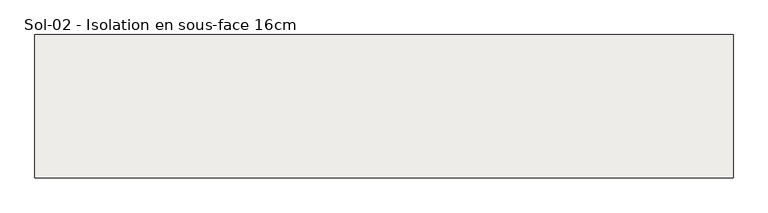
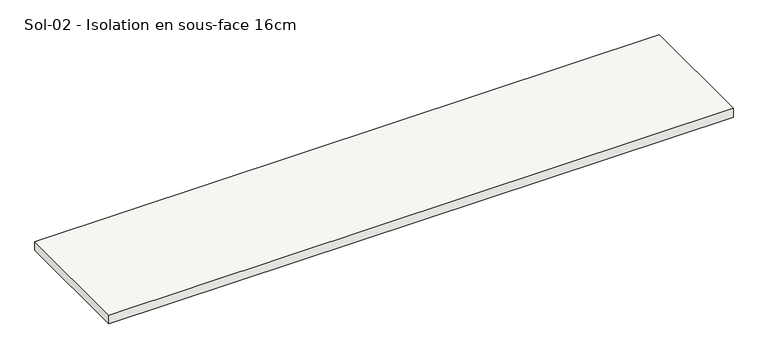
"""IFC4 building model written with IfcOpenShell, lengths in millimetres: slab geometry, Sol-02 - Isolation en sous-face 16cm."""

import ifcopenshell
import ifcopenshell.guid

model = None  # the IFC model being written
_history = None  # IfcOwnerHistory: only IFC2X3 demands one
_inside = {}  # id of a spatial element -> (the spatial element, [elements in it])
_under = {}  # id of a project, library or spatial element -> (it, [spatial elements below it])
_declared = {}  # id of a project -> (the project, [libraries it declares])
_typed = {}  # id of a type object -> (the type object, [elements of that type])
_made_of = {}  # id of a material, layer set ... -> (it, [elements and type objects made of it])


def new_model(schema):
    """Start an empty IFC model of exactly this schema.

    Asked for "IFC4X3", IfcOpenShell would pick the latest addendum, in which some entities
    have other attributes; the version numbers below select the first issue.
    IFC2X3 requires an IfcOwnerHistory on every rooted entity: one is made here for all.
    """
    global model, _history
    if schema == "IFC4X3":
        model = ifcopenshell.file(schema_version=(4, 3, 0, 0))
    else:
        model = ifcopenshell.file(schema=schema)
    _inside.clear()
    _under.clear()
    _declared.clear()
    _typed.clear()
    _made_of.clear()
    _history = None
    if model.schema == "IFC2X3":
        org = make("IfcOrganization", Name="unknown")
        user = make(
            "IfcPersonAndOrganization",
            ThePerson=make("IfcPerson", FamilyName="unknown"),
            TheOrganization=org,
        )
        app = make(
            "IfcApplication",
            ApplicationDeveloper=org,
            Version="unknown",
            ApplicationFullName="unknown",
            ApplicationIdentifier="unknown",
        )
        _history = make(
            "IfcOwnerHistory",
            OwningUser=user,
            OwningApplication=app,
            ChangeAction="ADDED",
            CreationDate=0,
        )
    return model


def make(cls, **values):
    """One entity of the class cls with the attributes given. An attribute that is None is left unset."""
    return model.create_entity(
        cls, **{name: value for name, value in values.items() if value is not None}
    )


def rooted(cls, **values):
    """An entity with a GlobalId (a new one), such as an element, a storey or a relation."""
    return make(cls, GlobalId=ifcopenshell.guid.new(), OwnerHistory=_history, **values)


def si_unit(unit_type, name, prefix=None):
    """IfcSIUnit, for example si_unit("LENGTHUNIT", "METRE", prefix="MILLI")."""
    return make("IfcSIUnit", UnitType=unit_type, Prefix=prefix, Name=name)


def assignment(units):
    """IfcUnitAssignment: the units of a project."""
    return None if units is None else make("IfcUnitAssignment", Units=units)


def point(xyz):
    """IfcCartesianPoint."""
    return None if xyz is None else make("IfcCartesianPoint", Coordinates=xyz)


def direction(xyz):
    """IfcDirection."""
    return None if xyz is None else make("IfcDirection", DirectionRatios=xyz)


def frame(location, z_axis=None, x_axis=None):
    """IfcAxis2Placement3D, a coordinate frame: its origin and axes. An axis left out is left unset."""
    return make(
        "IfcAxis2Placement3D",
        Location=point(location),
        Axis=direction(z_axis),
        RefDirection=direction(x_axis),
    )


def origin():
    """The frame at (0, 0, 0) with its axes left unset."""
    return frame((0.0, 0.0, 0.0))


def place(relative_to, where):
    """IfcLocalPlacement: puts the frame where relative to a parent placement (None: the world)."""
    return make(
        "IfcLocalPlacement", PlacementRelTo=relative_to, RelativePlacement=where
    )


def context(
    kind, dimensions, precision=None, world=None, true_north=None, identifier=None
):
    """IfcGeometricRepresentationContext, for example the 3D "Model" context."""
    return make(
        "IfcGeometricRepresentationContext",
        ContextIdentifier=identifier,
        ContextType=kind,
        CoordinateSpaceDimension=dimensions,
        Precision=precision,
        WorldCoordinateSystem=world,
        TrueNorth=true_north,
    )


def project(units=None, contexts=None):
    """IfcProject with its units and contexts."""
    return rooted(
        "IfcProject",
        Name="project",
        RepresentationContexts=contexts,
        UnitsInContext=assignment(units),
    )


def spatial(cls, under=None, at=None, **own):
    """A site, building, storey or space (cls), placed at a placement, below another one or the project."""
    s = rooted(cls, ObjectPlacement=at, **own)
    if under is not None:
        _under.setdefault(under.id(), (under, []))[1].append(s)
    return s


def polyline(points):
    """IfcPolyline through the points."""
    return make("IfcPolyline", Points=[point(p) for p in points])


def outline(outer, holes=None, kind="AREA"):
    """IfcArbitraryClosedProfileDef: a profile drawn as a closed curve; with holes, ...WithVoids."""
    if holes is None:
        return make("IfcArbitraryClosedProfileDef", ProfileType=kind, OuterCurve=outer)
    return make(
        "IfcArbitraryProfileDefWithVoids",
        ProfileType=kind,
        OuterCurve=outer,
        InnerCurves=holes,
    )


def extrude(swept, where, along, depth):
    """IfcExtrudedAreaSolid: the profile swept, set in the frame where, extruded along a direction by depth."""
    return make(
        "IfcExtrudedAreaSolid",
        SweptArea=swept,
        Position=where,
        ExtrudedDirection=direction(along),
        Depth=depth,
    )


def shape(context_of_items, identifier, shape_type, items):
    """IfcShapeRepresentation: the items that make up one representation, for example the "Body"."""
    return make(
        "IfcShapeRepresentation",
        ContextOfItems=context_of_items,
        RepresentationIdentifier=identifier,
        RepresentationType=shape_type,
        Items=items,
    )


def source(mapping_origin, context_of_items, identifier, shape_type, items):
    """IfcRepresentationMap: a shape defined once, which mapped items show again and again."""
    return make(
        "IfcRepresentationMap",
        MappingOrigin=mapping_origin,
        MappedRepresentation=shape(context_of_items, identifier, shape_type, items),
    )


def transform(
    local_origin,
    x_axis=None,
    y_axis=None,
    z_axis=None,
    scale=None,
    scale2=None,
    scale3=None,
    uniform=True,
):
    """IfcCartesianTransformationOperator3D, or its non-uniform kind. x_axis, y_axis, z_axis: its Axis1, 2, 3."""
    if uniform:
        return make(
            "IfcCartesianTransformationOperator3D",
            Axis1=direction(x_axis),
            Axis2=direction(y_axis),
            LocalOrigin=point(local_origin),
            Scale=scale,
            Axis3=direction(z_axis),
        )
    return make(
        "IfcCartesianTransformationOperator3DnonUniform",
        Axis1=direction(x_axis),
        Axis2=direction(y_axis),
        LocalOrigin=point(local_origin),
        Scale=scale,
        Axis3=direction(z_axis),
        Scale2=scale2,
        Scale3=scale3,
    )


def mapped(mapping_source, mapping_target):
    """IfcMappedItem: shows the shape of a source again, moved by a transform."""
    return make(
        "IfcMappedItem", MappingSource=mapping_source, MappingTarget=mapping_target
    )


def made_of(thing, what):
    """Note that an element or type object is made of a material, layer set ...; save() writes the relation."""
    if what is not None:
        _made_of.setdefault(what.id(), (what, []))[1].append(thing)
    return thing


def element(
    cls,
    number,
    at=None,
    inside=None,
    cuts=None,
    type_object=None,
    material=None,
    context=None,
    identifier="Body",
    shape_type=None,
    held_by="IfcProductDefinitionShape",
    body=None,
    shapes=None,
    **own,
):
    """One element of the class cls, such as IfcWall. Its Tag is "e" and its number.

    at: its placement. inside: the storey or other place that contains it. cuts: it is an
    opening in that element (IfcRelVoidsElement). A single representation is given by context,
    identifier, shape_type and body (its items); several are given by shapes. held_by: the class
    of the entity that holds the representations. save() writes the other relations.
    """
    e = rooted(cls, Tag="e%d" % number, ObjectPlacement=at, **own)
    if body is not None:
        shapes = [shape(context, identifier, shape_type, body)]
    if shapes is not None:
        e.Representation = make(held_by, Representations=shapes)
    if inside is not None:
        _inside.setdefault(inside.id(), (inside, []))[1].append(e)
    if cuts is not None:
        rooted(
            "IfcRelVoidsElement", RelatingBuildingElement=cuts, RelatedOpeningElement=e
        )
    if type_object is not None:
        _typed.setdefault(type_object.id(), (type_object, []))[1].append(e)
    return made_of(e, material)


def aggregate(whole, parts):
    """IfcRelAggregates: a whole, such as a stair, and the parts it consists of."""
    return rooted("IfcRelAggregates", RelatingObject=whole, RelatedObjects=parts)


def save(model, path):
    """Write the relations noted so far, then the file.

    IfcRelAggregates (storeys below a building ...), IfcRelContainedInSpatialStructure (elements
    in a storey), IfcRelDefinesByType, IfcRelAssociatesMaterial and IfcRelDeclares: one each for
    every whole, place, type object, material and project.
    """
    for whole, parts in _under.values():
        aggregate(whole, parts)
    for where, things in _inside.values():
        rooted(
            "IfcRelContainedInSpatialStructure",
            RelatedElements=things,
            RelatingStructure=where,
        )
    for kind, things in _typed.values():
        rooted("IfcRelDefinesByType", RelatedObjects=things, RelatingType=kind)
    for what, things in _made_of.values():
        rooted("IfcRelAssociatesMaterial", RelatedObjects=things, RelatingMaterial=what)
    for by, libraries in _declared.values():
        rooted("IfcRelDeclares", RelatingContext=by, RelatedDefinitions=libraries)
    model.write(path)


def sol_02_isolation_en_sous_face_16cm_38ed4226(model_context):
    return source(origin(), model_context, "Body", "SweptSolid", [
        extrude(outline(polyline([(-36679.9987968, -22301.5656731), (-36679.9987968, -24561.5656731), (-47679.998776, -24561.5656731), (-47679.998776, -22301.5656731), (-36679.9987968, -22301.5656731)])), frame((0.0, 0.0, -470.0), z_axis=(0.0, 0.0, 1.0), x_axis=(1.0, 0.0, 0.0)), (0.0, 0.0, 1.0), 160.0),
    ])


if __name__ == "__main__":
    model = new_model("IFC4")
    model_context = context("Model", 3, world=origin())
    ifc_project = project(units=[si_unit("LENGTHUNIT", "METRE", prefix="MILLI")], contexts=[model_context])
    site = spatial("IfcSite", under=ifc_project)
    building = spatial("IfcBuilding", under=site)
    placement = place(None, origin())
    sol_02_isolation_en_sous_face_16cm_shape = sol_02_isolation_en_sous_face_16cm_38ed4226(model_context)
    element("IfcSlab", 1, ObjectType="Sol-02 - Isolation en sous-face 16cm", at=placement, inside=building, context=model_context, shape_type="MappedRepresentation", body=[
        mapped(sol_02_isolation_en_sous_face_16cm_shape, transform((0.0, 0.0, 0.0), x_axis=(1.0, 0.0, 0.0), y_axis=(0.0, 1.0, 0.0), z_axis=(0.0, 0.0, 1.0))),
    ])
    save(model, "model.ifc")
